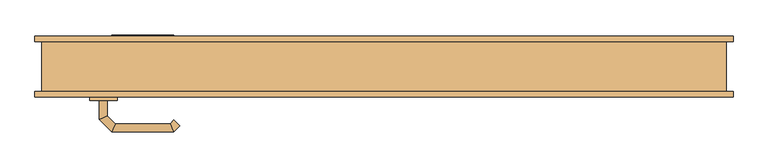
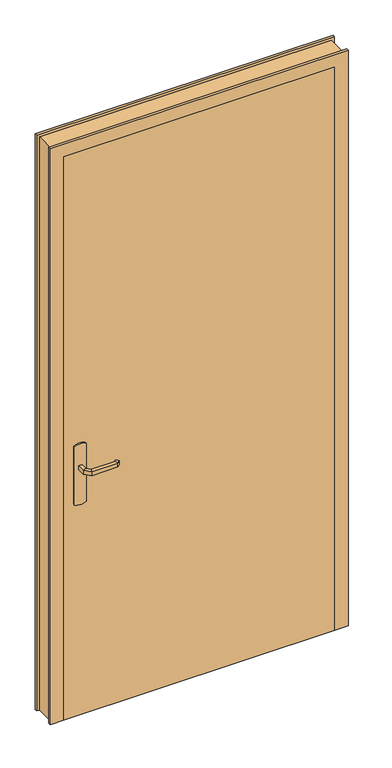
"""IFC4 building model written with IfcOpenShell, lengths in millimetres: door geometry, C&L Int. Simple vantail (dormant variable) : 93x204cm - (90) acoustique."""

import ifcopenshell
import ifcopenshell.guid

model = None  # the IFC model being written
_history = None  # IfcOwnerHistory: only IFC2X3 demands one
_inside = {}  # id of a spatial element -> (the spatial element, [elements in it])
_under = {}  # id of a project, library or spatial element -> (it, [spatial elements below it])
_declared = {}  # id of a project -> (the project, [libraries it declares])
_typed = {}  # id of a type object -> (the type object, [elements of that type])
_made_of = {}  # id of a material, layer set ... -> (it, [elements and type objects made of it])


def new_model(schema):
    """Start an empty IFC model of exactly this schema.

    Asked for "IFC4X3", IfcOpenShell would pick the latest addendum, in which some entities
    have other attributes; the version numbers below select the first issue.
    IFC2X3 requires an IfcOwnerHistory on every rooted entity: one is made here for all.
    """
    global model, _history
    if schema == "IFC4X3":
        model = ifcopenshell.file(schema_version=(4, 3, 0, 0))
    else:
        model = ifcopenshell.file(schema=schema)
    _inside.clear()
    _under.clear()
    _declared.clear()
    _typed.clear()
    _made_of.clear()
    _history = None
    if model.schema == "IFC2X3":
        org = make("IfcOrganization", Name="unknown")
        user = make(
            "IfcPersonAndOrganization",
            ThePerson=make("IfcPerson", FamilyName="unknown"),
            TheOrganization=org,
        )
        app = make(
            "IfcApplication",
            ApplicationDeveloper=org,
            Version="unknown",
            ApplicationFullName="unknown",
            ApplicationIdentifier="unknown",
        )
        _history = make(
            "IfcOwnerHistory",
            OwningUser=user,
            OwningApplication=app,
            ChangeAction="ADDED",
            CreationDate=0,
        )
    return model


def make(cls, **values):
    """One entity of the class cls with the attributes given. An attribute that is None is left unset."""
    return model.create_entity(
        cls, **{name: value for name, value in values.items() if value is not None}
    )


def rooted(cls, **values):
    """An entity with a GlobalId (a new one), such as an element, a storey or a relation."""
    return make(cls, GlobalId=ifcopenshell.guid.new(), OwnerHistory=_history, **values)


def si_unit(unit_type, name, prefix=None):
    """IfcSIUnit, for example si_unit("LENGTHUNIT", "METRE", prefix="MILLI")."""
    return make("IfcSIUnit", UnitType=unit_type, Prefix=prefix, Name=name)


def assignment(units):
    """IfcUnitAssignment: the units of a project."""
    return None if units is None else make("IfcUnitAssignment", Units=units)


def point(xyz):
    """IfcCartesianPoint."""
    return None if xyz is None else make("IfcCartesianPoint", Coordinates=xyz)


def direction(xyz):
    """IfcDirection."""
    return None if xyz is None else make("IfcDirection", DirectionRatios=xyz)


def frame(location, z_axis=None, x_axis=None):
    """IfcAxis2Placement3D, a coordinate frame: its origin and axes. An axis left out is left unset."""
    return make(
        "IfcAxis2Placement3D",
        Location=point(location),
        Axis=direction(z_axis),
        RefDirection=direction(x_axis),
    )


def frame_2d(location, x_axis=None):
    """IfcAxis2Placement2D, a coordinate frame in the plane: its origin and x axis."""
    return make(
        "IfcAxis2Placement2D", Location=point(location), RefDirection=direction(x_axis)
    )


def origin():
    """The frame at (0, 0, 0) with its axes left unset."""
    return frame((0.0, 0.0, 0.0))


def origin_with_axes():
    """The frame at (0, 0, 0) with the z axis (0, 0, 1) and the x axis (1, 0, 0) written out."""
    return frame((0.0, 0.0, 0.0), z_axis=(0.0, 0.0, 1.0), x_axis=(1.0, 0.0, 0.0))


def place(relative_to, where):
    """IfcLocalPlacement: puts the frame where relative to a parent placement (None: the world)."""
    return make(
        "IfcLocalPlacement", PlacementRelTo=relative_to, RelativePlacement=where
    )


def context(
    kind, dimensions, precision=None, world=None, true_north=None, identifier=None
):
    """IfcGeometricRepresentationContext, for example the 3D "Model" context."""
    return make(
        "IfcGeometricRepresentationContext",
        ContextIdentifier=identifier,
        ContextType=kind,
        CoordinateSpaceDimension=dimensions,
        Precision=precision,
        WorldCoordinateSystem=world,
        TrueNorth=true_north,
    )


def project(units=None, contexts=None):
    """IfcProject with its units and contexts."""
    return rooted(
        "IfcProject",
        Name="project",
        RepresentationContexts=contexts,
        UnitsInContext=assignment(units),
    )


def spatial(cls, under=None, at=None, **own):
    """A site, building, storey or space (cls), placed at a placement, below another one or the project."""
    s = rooted(cls, ObjectPlacement=at, **own)
    if under is not None:
        _under.setdefault(under.id(), (under, []))[1].append(s)
    return s


def polyline(points):
    """IfcPolyline through the points."""
    return make("IfcPolyline", Points=[point(p) for p in points])


def circle_curve(where, radius):
    """IfcCircle in the frame where."""
    return make("IfcCircle", Position=where, Radius=radius)


def ellipse_curve(where, semi_axis1, semi_axis2):
    """IfcEllipse in the frame where."""
    return make(
        "IfcEllipse", Position=where, SemiAxis1=semi_axis1, SemiAxis2=semi_axis2
    )


def trimmed(basis, trim1, trim2, sense, master):
    """IfcTrimmedCurve: the piece of a basis curve between two trims."""
    return make(
        "IfcTrimmedCurve",
        BasisCurve=basis,
        Trim1=trim1,
        Trim2=trim2,
        SenseAgreement=sense,
        MasterRepresentation=master,
    )


def segment(curve, same_sense, transition):
    """IfcCompositeCurveSegment."""
    return make(
        "IfcCompositeCurveSegment",
        Transition=transition,
        SameSense=same_sense,
        ParentCurve=curve,
    )


def composite_curve(segments, self_intersect=None):
    """IfcCompositeCurve: segments joined end to end."""
    return make("IfcCompositeCurve", Segments=segments, SelfIntersect=self_intersect)


def outline(outer, holes=None, kind="AREA"):
    """IfcArbitraryClosedProfileDef: a profile drawn as a closed curve; with holes, ...WithVoids."""
    if holes is None:
        return make("IfcArbitraryClosedProfileDef", ProfileType=kind, OuterCurve=outer)
    return make(
        "IfcArbitraryProfileDefWithVoids",
        ProfileType=kind,
        OuterCurve=outer,
        InnerCurves=holes,
    )


def extrude(swept, where, along, depth):
    """IfcExtrudedAreaSolid: the profile swept, set in the frame where, extruded along a direction by depth."""
    return make(
        "IfcExtrudedAreaSolid",
        SweptArea=swept,
        Position=where,
        ExtrudedDirection=direction(along),
        Depth=depth,
    )


def faces_of(points, faces, orient=None, outer=None):
    """IfcFace entities. A face is a list of loops; a loop is a list of indices into points, from 0.

    orient and outer hold one flag for each loop. By default every Orientation is true, the
    first loop of a face is its IfcFaceOuterBound and the others are IfcFaceBound.
    """
    made = []
    for i, loops in enumerate(faces):
        bounds = []
        for j, loop in enumerate(loops):
            is_outer = j == 0 if outer is None else outer[i][j]
            bounds.append(
                make(
                    "IfcFaceOuterBound" if is_outer else "IfcFaceBound",
                    Bound=make("IfcPolyLoop", Polygon=[points[k] for k in loop]),
                    Orientation=True if orient is None else orient[i][j],
                )
            )
        made.append(make("IfcFace", Bounds=bounds))
    return made


def faceted_brep(points, faces, orient=None, outer=None, voids=None):
    """IfcFacetedBrep: a solid bounded by flat faces; with voids (closed shells), ...WithVoids."""
    shared = [point(p) for p in points]
    hull = make("IfcClosedShell", CfsFaces=faces_of(shared, faces, orient, outer))
    if voids is None:
        return make("IfcFacetedBrep", Outer=hull)
    return make(
        "IfcFacetedBrepWithVoids",
        Outer=hull,
        Voids=[
            make(cls, CfsFaces=faces_of(shared, fs, o, b)) for cls, fs, o, b in voids
        ],
    )


def shape(context_of_items, identifier, shape_type, items):
    """IfcShapeRepresentation: the items that make up one representation, for example the "Body"."""
    return make(
        "IfcShapeRepresentation",
        ContextOfItems=context_of_items,
        RepresentationIdentifier=identifier,
        RepresentationType=shape_type,
        Items=items,
    )


def source(mapping_origin, context_of_items, identifier, shape_type, items):
    """IfcRepresentationMap: a shape defined once, which mapped items show again and again."""
    return make(
        "IfcRepresentationMap",
        MappingOrigin=mapping_origin,
        MappedRepresentation=shape(context_of_items, identifier, shape_type, items),
    )


def transform(
    local_origin,
    x_axis=None,
    y_axis=None,
    z_axis=None,
    scale=None,
    scale2=None,
    scale3=None,
    uniform=True,
):
    """IfcCartesianTransformationOperator3D, or its non-uniform kind. x_axis, y_axis, z_axis: its Axis1, 2, 3."""
    if uniform:
        return make(
            "IfcCartesianTransformationOperator3D",
            Axis1=direction(x_axis),
            Axis2=direction(y_axis),
            LocalOrigin=point(local_origin),
            Scale=scale,
            Axis3=direction(z_axis),
        )
    return make(
        "IfcCartesianTransformationOperator3DnonUniform",
        Axis1=direction(x_axis),
        Axis2=direction(y_axis),
        LocalOrigin=point(local_origin),
        Scale=scale,
        Axis3=direction(z_axis),
        Scale2=scale2,
        Scale3=scale3,
    )


def mapped(mapping_source, mapping_target):
    """IfcMappedItem: shows the shape of a source again, moved by a transform."""
    return make(
        "IfcMappedItem", MappingSource=mapping_source, MappingTarget=mapping_target
    )


def made_of(thing, what):
    """Note that an element or type object is made of a material, layer set ...; save() writes the relation."""
    if what is not None:
        _made_of.setdefault(what.id(), (what, []))[1].append(thing)
    return thing


def element(
    cls,
    number,
    at=None,
    inside=None,
    cuts=None,
    type_object=None,
    material=None,
    context=None,
    identifier="Body",
    shape_type=None,
    held_by="IfcProductDefinitionShape",
    body=None,
    shapes=None,
    **own,
):
    """One element of the class cls, such as IfcWall. Its Tag is "e" and its number.

    at: its placement. inside: the storey or other place that contains it. cuts: it is an
    opening in that element (IfcRelVoidsElement). A single representation is given by context,
    identifier, shape_type and body (its items); several are given by shapes. held_by: the class
    of the entity that holds the representations. save() writes the other relations.
    """
    e = rooted(cls, Tag="e%d" % number, ObjectPlacement=at, **own)
    if body is not None:
        shapes = [shape(context, identifier, shape_type, body)]
    if shapes is not None:
        e.Representation = make(held_by, Representations=shapes)
    if inside is not None:
        _inside.setdefault(inside.id(), (inside, []))[1].append(e)
    if cuts is not None:
        rooted(
            "IfcRelVoidsElement", RelatingBuildingElement=cuts, RelatedOpeningElement=e
        )
    if type_object is not None:
        _typed.setdefault(type_object.id(), (type_object, []))[1].append(e)
    return made_of(e, material)


def aggregate(whole, parts):
    """IfcRelAggregates: a whole, such as a stair, and the parts it consists of."""
    return rooted("IfcRelAggregates", RelatingObject=whole, RelatedObjects=parts)


def save(model, path):
    """Write the relations noted so far, then the file.

    IfcRelAggregates (storeys below a building ...), IfcRelContainedInSpatialStructure (elements
    in a storey), IfcRelDefinesByType, IfcRelAssociatesMaterial and IfcRelDeclares: one each for
    every whole, place, type object, material and project.
    """
    for whole, parts in _under.values():
        aggregate(whole, parts)
    for where, things in _inside.values():
        rooted(
            "IfcRelContainedInSpatialStructure",
            RelatedElements=things,
            RelatingStructure=where,
        )
    for kind, things in _typed.values():
        rooted("IfcRelDefinesByType", RelatedObjects=things, RelatingType=kind)
    for what, things in _made_of.values():
        rooted("IfcRelAssociatesMaterial", RelatedObjects=things, RelatingMaterial=what)
    for by, libraries in _declared.values():
        rooted("IfcRelDeclares", RelatingContext=by, RelatedDefinitions=libraries)
    model.write(path)


def plane_surface(at):
    """IfcPlane: the flat surface through the origin of the frame at, square to its z axis."""
    return make("IfcPlane", Position=at)


def cylinder_surface(at, radius):
    """IfcCylindricalSurface: all points at the distance radius from the z axis of the frame at."""
    return make("IfcCylindricalSurface", Position=at, Radius=radius)


def advanced_brep(points, edges, surfaces, faces):
    """IfcAdvancedBrep: a solid bounded by faces that lie on surfaces and meet in shared edges.

    An edge is (start, end): straight between two places in points (the first is 0);
    or (start, end, curve); or (start, end, curve, False) where it runs against its curve.
    A face is (place in surfaces, loops), or (place, loops, False) where it looks against
    its surface's normal. A loop lists edges by number (the first is 1), with a minus sign
    where the edge is run from its end to its start. The first loop is the outer one.
    """
    corners = [point(p) for p in points]
    vertices = [make("IfcVertexPoint", VertexGeometry=c) for c in corners]
    made = []
    for start, end, *more in edges:
        made.append(
            make(
                "IfcEdgeCurve",
                EdgeStart=vertices[start],
                EdgeEnd=vertices[end],
                EdgeGeometry=more[0] if more else make("IfcPolyline", Points=[corners[start], corners[end]]),
                SameSense=more[1] if len(more) > 1 else True,
            )
        )
    hull = []
    for where, loops, *sense in faces:
        bounds = []
        for j, loop in enumerate(loops):
            ring = [make("IfcOrientedEdge", EdgeElement=made[abs(k) - 1], Orientation=k > 0) for k in loop]
            bounds.append(
                make(
                    "IfcFaceOuterBound" if j == 0 else "IfcFaceBound",
                    Bound=make("IfcEdgeLoop", EdgeList=ring),
                    Orientation=True,
                )
            )
        hull.append(make("IfcAdvancedFace", Bounds=bounds, FaceSurface=surfaces[where], SameSense=sense[0] if sense else True))
    return make("IfcAdvancedBrep", Outer=make("IfcClosedShell", CfsFaces=hull))


def door_9ec744e0(model_context):
    return source(origin(), model_context, "Body", "SolidModel", [
        extrude(outline(composite_curve([segment(trimmed(circle_curve(frame_2d((804.6410162, -410.0)), 40.0), [point((770.0, -430.0))], [point((770.0, -390.0))], False, "CARTESIAN"), True, "CONTINUOUS"), segment(polyline([(770.0, -390.0), (980.0, -390.0)]), True, "CONTINUOUS"), segment(trimmed(circle_curve(frame_2d((945.3589838, -410.0)), 40.0), [point((980.0, -390.0))], [point((980.0, -430.0))], False, "CARTESIAN"), True, "CONTINUOUS"), segment(polyline([(980.0, -430.0), (770.0, -430.0)]), True, "CONTINUOUS")], self_intersect=False)), frame((0.0, -49.5, 0.0), z_axis=(0.0, 1.0, 0.0), x_axis=(0.0, 0.0, 1.0)), (0.0, 0.0, 1.0), 5.0),
        extrude(outline(composite_curve([segment(trimmed(circle_curve(frame_2d((945.3589838, -410.0)), 40.0), [point((980.0, -390.0))], [point((980.0, -430.0))], False, "CARTESIAN"), True, "CONTINUOUS"), segment(polyline([(980.0, -430.0), (770.0, -430.0)]), True, "CONTINUOUS"), segment(trimmed(circle_curve(frame_2d((804.6410162, -410.0)), 40.0), [point((770.0, -430.0))], [point((770.0, -390.0))], False, "CARTESIAN"), True, "CONTINUOUS"), segment(polyline([(770.0, -390.0), (980.0, -390.0)]), True, "CONTINUOUS")], self_intersect=False)), frame((0.0, -4.5, 0.0), z_axis=(0.0, 1.0, 0.0), x_axis=(0.0, 0.0, 1.0)), (0.0, 0.0, 1.0), 5.0),
        advanced_brep(
        [(-416.0, -49.5, 907.0), (-404.0, -49.5, 907.0), (-404.0, -49.5, 893.0), (-416.0, -49.5, 893.0), (-416.0, -77.1509507, 907.0), (-404.0, -72.180388, 907.0), (-404.0, -72.180388, 893.0), (-416.0, -77.1509507, 893.0), (-397.62279, -95.5281607, 907.0), (-392.6522273, -83.5281607, 907.0), (-392.6522273, -83.5281607, 893.0), (-397.62279, -95.5281607, 893.0), (-307.496078, -95.5281607, 907.0), (-312.4666408, -83.5281607, 907.0), (-312.4666408, -83.5281607, 893.0), (-307.496078, -95.5281607, 893.0), (-298.6676509, -86.6997336, 907.0), (-298.6676509, -86.6997336, 893.0), (-307.1529323, -78.2144522, 893.0), (-307.1529323, -78.2144522, 907.0)],
        [
            (0, 1, circle_curve(frame((-410.0, -49.5, 886.9542278), z_axis=(0.0, 1.0, 0.0), x_axis=(1.0, 0.0, 0.0)), 20.9244589)),
            (1, 2),
            (2, 3, circle_curve(frame((-410.0, -49.5, 913.0457722), z_axis=(0.0, 1.0, 0.0), x_axis=(1.0, 0.0, 0.0)), 20.9244589)),
            (3, 0),
            (0, 4),
            (4, 5, ellipse_curve(frame((-410.0, -74.6656693, 886.9542278), z_axis=(-0.3826834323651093, 0.9238795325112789, 0.0), x_axis=(0.9238795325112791, 0.38268343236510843, 0.0)), 22.6484711, 20.9244589)),
            (5, 1),
            (5, 6),
            (6, 2),
            (6, 7, ellipse_curve(frame((-410.0, -74.6656693, 913.0457722), z_axis=(-0.3826834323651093, 0.9238795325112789, 0.0), x_axis=(0.9238795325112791, 0.38268343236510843, 0.0)), 22.6484711, 20.9244589)),
            (7, 3),
            (7, 4),
            (4, 8),
            (8, 9, ellipse_curve(frame((-395.1375086, -89.5281607, 886.9542278), z_axis=(-0.9238795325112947, 0.38268343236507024, 0.0), x_axis=(0.3826834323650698, 0.9238795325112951, 0.0)), 22.6484711, 20.9244589)),
            (9, 5),
            (9, 10),
            (10, 6),
            (10, 11, ellipse_curve(frame((-395.1375086, -89.5281607, 913.0457722), z_axis=(-0.9238795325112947, 0.38268343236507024, 0.0), x_axis=(0.3826834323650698, 0.9238795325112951, 0.0)), 22.6484711, 20.9244589)),
            (11, 7),
            (11, 8),
            (8, 12),
            (12, 13, ellipse_curve(frame((-309.9813594, -89.5281607, 886.9542278), z_axis=(-0.9238795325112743, -0.3826834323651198, 0.0), x_axis=(-0.38268343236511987, 0.9238795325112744, 0.0)), 22.6484711, 20.9244589)),
            (13, 9),
            (13, 14),
            (14, 10),
            (14, 15, ellipse_curve(frame((-309.9813594, -89.5281607, 913.0457722), z_axis=(-0.9238795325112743, -0.3826834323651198, 0.0), x_axis=(-0.38268343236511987, 0.9238795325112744, 0.0)), 22.6484711, 20.9244589)),
            (15, 11),
            (15, 12),
            (16, 17),
            (17, 18, circle_curve(frame((-302.9102916, -82.4570929, 913.0457722), z_axis=(0.7071067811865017, 0.7071067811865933, 0.0), x_axis=(-0.7071067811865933, 0.7071067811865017, 0.0)), 20.9244589)),
            (18, 19),
            (19, 16, circle_curve(frame((-302.9102916, -82.4570929, 886.9542278), z_axis=(0.7071067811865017, 0.7071067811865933, 0.0), x_axis=(-0.7071067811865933, 0.7071067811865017, 0.0)), 20.9244589)),
            (12, 16),
            (19, 13),
            (18, 14),
            (17, 15),
        ],
        [
            plane_surface(frame((-419.2195445, -49.5, 900.0), z_axis=(0.0, 1.0, 0.0), x_axis=(0.0, 0.0, -1.0))),
            cylinder_surface(frame((-410.0, -49.5, 886.9542278), z_axis=(0.0, 1.0, 0.0), x_axis=(1.0, 0.0, 0.0)), 20.9244589),
            plane_surface(frame((-404.0, -49.5, 907.0), z_axis=(1.0, 0.0, 0.0), x_axis=(0.0, -1.0, 0.0))),
            cylinder_surface(frame((-410.0, -49.5, 913.0457722), z_axis=(0.0, 1.0, 0.0), x_axis=(1.0, 0.0, 0.0)), 20.9244589),
            plane_surface(frame((-416.0, -49.5, 893.0), z_axis=(-1.0, 0.0, 0.0), x_axis=(0.0, -1.0, 0.0))),
            cylinder_surface(frame((-410.0, -74.6656693, 886.9542278), z_axis=(-0.7071067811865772, 0.7071067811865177, 0.0), x_axis=(0.7071067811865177, 0.7071067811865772, 0.0)), 20.9244589),
            plane_surface(frame((-404.0, -72.180388, 907.0), z_axis=(0.7071067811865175, 0.7071067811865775, 0.0), x_axis=(0.7071067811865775, -0.7071067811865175, 0.0))),
            cylinder_surface(frame((-410.0, -74.6656693, 913.0457722), z_axis=(-0.7071067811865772, 0.7071067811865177, 0.0), x_axis=(0.7071067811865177, 0.7071067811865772, 0.0)), 20.9244589),
            plane_surface(frame((-416.0, -77.1509507, 893.0), z_axis=(-0.7071067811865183, -0.7071067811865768, 0.0), x_axis=(0.7071067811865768, -0.7071067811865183, 0.0))),
            cylinder_surface(frame((-395.1375086, -89.5281607, 886.9542278), z_axis=(-1.0, 0.0, 0.0), x_axis=(0.0, 1.0, 0.0)), 20.9244589),
            plane_surface(frame((-392.6522273, -83.5281607, 907.0), z_axis=(0.0, 1.0, 0.0), x_axis=(1.0, 0.0, 0.0))),
            cylinder_surface(frame((-395.1375086, -89.5281607, 913.0457722), z_axis=(-1.0, 0.0, 0.0), x_axis=(0.0, 1.0, 0.0)), 20.9244589),
            plane_surface(frame((-397.62279, -95.5281607, 893.0), z_axis=(0.0, -1.0, 0.0), x_axis=(1.0, 0.0, 0.0))),
            plane_surface(frame((-302.9102916, -82.4570929, 909.2195445), z_axis=(0.7071067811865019, 0.7071067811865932, 0.0), x_axis=(0.7071067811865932, -0.7071067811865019, 0.0))),
            cylinder_surface(frame((-309.9813594, -89.5281607, 886.9542278), z_axis=(-0.7071067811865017, -0.7071067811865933, 0.0), x_axis=(-0.7071067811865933, 0.7071067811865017, 0.0)), 20.9244589),
            plane_surface(frame((-312.4666408, -83.5281607, 907.0), z_axis=(-0.7071067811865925, 0.7071067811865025, 0.0), x_axis=(0.7071067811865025, 0.7071067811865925, 0.0))),
            cylinder_surface(frame((-309.9813594, -89.5281607, 913.0457722), z_axis=(-0.7071067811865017, -0.7071067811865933, 0.0), x_axis=(-0.7071067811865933, 0.7071067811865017, 0.0)), 20.9244589),
            plane_surface(frame((-307.496078, -95.5281607, 893.0), z_axis=(0.707106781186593, -0.7071067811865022, 0.0), x_axis=(0.7071067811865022, 0.707106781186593, 0.0))),
        ],
        [
            (0, [[1, 2, 3, 4]]),
            (1, [[-1, 5, 6, 7]]),
            (2, [[-2, -7, 8, 9]]),
            (3, [[-3, -9, 10, 11]]),
            (4, [[-4, -11, 12, -5]]),
            (5, [[-6, 13, 14, 15]]),
            (6, [[-8, -15, 16, 17]]),
            (7, [[-10, -17, 18, 19]]),
            (8, [[-12, -19, 20, -13]]),
            (9, [[-14, 21, 22, 23]]),
            (10, [[-16, -23, 24, 25]]),
            (11, [[-18, -25, 26, 27]]),
            (12, [[-20, -27, 28, -21]]),
            (13, [[29, 30, 31, 32]]),
            (14, [[-22, 33, -32, 34]]),
            (15, [[-24, -34, -31, 35]]),
            (16, [[-26, -35, -30, 36]]),
            (17, [[-28, -36, -29, -33]]),
        ],
    ),
        advanced_brep(
        [(-404.0, 0.5, 893.0), (-404.0, 0.5, 907.0), (-416.0, 0.5, 907.0), (-416.0, 0.5, 893.0), (-404.0, 22.9852045, 893.0), (-404.0, 22.9852045, 907.0), (-416.0, 27.9557673, 907.0), (-416.0, 27.9557673, 893.0), (-392.5147186, 34.4704859, 893.0), (-392.5147186, 34.4704859, 907.0), (-397.4852814, 46.4704859, 907.0), (-397.4852814, 46.4704859, 893.0), (-312.4394977, 34.4704859, 893.0), (-312.4394977, 34.4704859, 907.0), (-307.468935, 46.4704859, 907.0), (-307.468935, 46.4704859, 893.0), (-307.1257892, 29.1567774, 893.0), (-298.6405078, 37.6420588, 893.0), (-298.6405078, 37.6420588, 907.0), (-307.1257892, 29.1567774, 907.0)],
        [
            (0, 1),
            (1, 2, circle_curve(frame((-410.0, 0.5, 886.9542278), z_axis=(0.0, -1.0, 0.0), x_axis=(-1.0, 0.0, 0.0)), 20.9244589)),
            (2, 3),
            (3, 0, circle_curve(frame((-410.0, 0.5, 913.0457722), z_axis=(0.0, -1.0, 0.0), x_axis=(-1.0, 0.0, 0.0)), 20.9244589)),
            (0, 4),
            (4, 5),
            (5, 1),
            (5, 6, ellipse_curve(frame((-410.0, 25.4704859, 886.9542278), z_axis=(-0.3826834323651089, -0.9238795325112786, 0.0), x_axis=(0.9238795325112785, -0.3826834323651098, 0.0)), 22.6484711, 20.9244589)),
            (6, 2),
            (6, 7),
            (7, 3),
            (7, 4, ellipse_curve(frame((-410.0, 25.4704859, 913.0457722), z_axis=(-0.3826834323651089, -0.9238795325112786, 0.0), x_axis=(0.9238795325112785, -0.3826834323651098, 0.0)), 22.6484711, 20.9244589)),
            (4, 8),
            (8, 9),
            (9, 5),
            (9, 10, ellipse_curve(frame((-395.0, 40.4704859, 886.9542278), z_axis=(-0.9238795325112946, -0.38268343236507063, 0.0), x_axis=(0.3826834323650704, -0.9238795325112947, 0.0)), 22.6484711, 20.9244589)),
            (10, 6),
            (10, 11),
            (11, 7),
            (11, 8, ellipse_curve(frame((-395.0, 40.4704859, 913.0457722), z_axis=(-0.9238795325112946, -0.38268343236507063, 0.0), x_axis=(0.3826834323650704, -0.9238795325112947, 0.0)), 22.6484711, 20.9244589)),
            (8, 12),
            (12, 13),
            (13, 9),
            (13, 14, ellipse_curve(frame((-309.9542163, 40.4704859, 886.9542278), z_axis=(-0.9238795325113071, 0.38268343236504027, 0.0), x_axis=(-0.38268343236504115, -0.9238795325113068, 0.0)), 22.6484711, 20.9244589)),
            (14, 10),
            (14, 15),
            (15, 11),
            (15, 12, ellipse_curve(frame((-309.9542163, 40.4704859, 913.0457722), z_axis=(-0.9238795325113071, 0.38268343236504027, 0.0), x_axis=(-0.38268343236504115, -0.9238795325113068, 0.0)), 22.6484711, 20.9244589)),
            (16, 17, circle_curve(frame((-302.8831485, 33.3994181, 913.0457722), z_axis=(0.7071067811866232, -0.7071067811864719, 0.0), x_axis=(0.7071067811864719, 0.7071067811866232, 0.0)), 20.9244589)),
            (17, 18),
            (18, 19, circle_curve(frame((-302.8831485, 33.3994181, 886.9542278), z_axis=(0.7071067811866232, -0.7071067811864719, 0.0), x_axis=(0.7071067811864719, 0.7071067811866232, 0.0)), 20.9244589)),
            (19, 16),
            (12, 16),
            (19, 13),
            (18, 14),
            (17, 15),
        ],
        [
            plane_surface(frame((-419.2195445, 0.5, 900.0), z_axis=(0.0, -1.0, 0.0), x_axis=(0.0, 0.0, 1.0))),
            plane_surface(frame((-404.0, 0.5, 893.0), z_axis=(1.0, 0.0, 0.0), x_axis=(0.0, 1.0, 0.0))),
            cylinder_surface(frame((-410.0, 0.5, 886.9542278), z_axis=(0.0, -1.0, 0.0), x_axis=(-1.0, 0.0, 0.0)), 20.9244589),
            plane_surface(frame((-416.0, 0.5, 907.0), z_axis=(-1.0, 0.0, 0.0), x_axis=(0.0, 1.0, 0.0))),
            cylinder_surface(frame((-410.0, 0.5, 913.0457722), z_axis=(0.0, -1.0, 0.0), x_axis=(-1.0, 0.0, 0.0)), 20.9244589),
            plane_surface(frame((-404.0, 22.9852045, 893.0), z_axis=(0.707106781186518, -0.707106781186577, 0.0), x_axis=(0.707106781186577, 0.707106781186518, 0.0))),
            cylinder_surface(frame((-410.0, 25.4704859, 886.9542278), z_axis=(-0.7071067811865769, -0.7071067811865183, 0.0), x_axis=(-0.7071067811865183, 0.7071067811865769, 0.0)), 20.9244589),
            plane_surface(frame((-416.0, 27.9557673, 907.0), z_axis=(-0.7071067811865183, 0.7071067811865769, 0.0), x_axis=(0.7071067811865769, 0.7071067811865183, 0.0))),
            cylinder_surface(frame((-410.0, 25.4704859, 913.0457722), z_axis=(-0.7071067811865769, -0.7071067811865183, 0.0), x_axis=(-0.7071067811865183, 0.7071067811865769, 0.0)), 20.9244589),
            plane_surface(frame((-392.5147186, 34.4704859, 893.0), z_axis=(0.0, -1.0, 0.0), x_axis=(1.0, 0.0, 0.0))),
            cylinder_surface(frame((-395.0, 40.4704859, 886.9542278), z_axis=(-1.0, 0.0, 0.0), x_axis=(0.0, 1.0, 0.0)), 20.9244589),
            plane_surface(frame((-397.4852814, 46.4704859, 907.0), z_axis=(0.0, 1.0, 0.0), x_axis=(1.0, 0.0, 0.0))),
            cylinder_surface(frame((-395.0, 40.4704859, 913.0457722), z_axis=(-1.0, 0.0, 0.0), x_axis=(0.0, 1.0, 0.0)), 20.9244589),
            plane_surface(frame((-302.8831485, 33.3994181, 890.7804555), z_axis=(0.7071067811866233, -0.7071067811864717, 0.0), x_axis=(0.7071067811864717, 0.7071067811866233, 0.0))),
            plane_surface(frame((-312.4394977, 34.4704859, 893.0), z_axis=(-0.7071067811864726, -0.7071067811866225, 0.0), x_axis=(0.7071067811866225, -0.7071067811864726, 0.0))),
            cylinder_surface(frame((-309.9542163, 40.4704859, 886.9542278), z_axis=(-0.7071067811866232, 0.7071067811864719, 0.0), x_axis=(0.7071067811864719, 0.7071067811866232, 0.0)), 20.9244589),
            plane_surface(frame((-307.468935, 46.4704859, 907.0), z_axis=(0.7071067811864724, 0.7071067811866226, 0.0), x_axis=(0.7071067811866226, -0.7071067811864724, 0.0))),
            cylinder_surface(frame((-309.9542163, 40.4704859, 913.0457722), z_axis=(-0.7071067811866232, 0.7071067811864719, 0.0), x_axis=(0.7071067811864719, 0.7071067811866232, 0.0)), 20.9244589),
        ],
        [
            (0, [[1, 2, 3, 4]]),
            (1, [[-1, 5, 6, 7]]),
            (2, [[-2, -7, 8, 9]]),
            (3, [[-3, -9, 10, 11]]),
            (4, [[-4, -11, 12, -5]]),
            (5, [[-6, 13, 14, 15]]),
            (6, [[-8, -15, 16, 17]]),
            (7, [[-10, -17, 18, 19]]),
            (8, [[-12, -19, 20, -13]]),
            (9, [[-14, 21, 22, 23]]),
            (10, [[-16, -23, 24, 25]]),
            (11, [[-18, -25, 26, 27]]),
            (12, [[-20, -27, 28, -21]]),
            (13, [[29, 30, 31, 32]]),
            (14, [[-22, 33, -32, 34]]),
            (15, [[-24, -34, -31, 35]]),
            (16, [[-26, -35, -30, 36]]),
            (17, [[-28, -36, -29, -33]]),
        ],
    ),
        faceted_brep([(-500.0, -36.5, 0.0), (-500.0, 36.5, 0.0), (-510.0, 36.5, 0.0), (-510.0, 44.5, 0.0), (-450.0, 44.5, 0.0), (-450.0, -4.5, 0.0), (-465.0, -4.5, 0.0), (-465.0, -44.5, 0.0), (-510.0, -44.5, 0.0), (-510.0, -36.5, 0.0), (-500.0, -36.5, 2075.0), (-500.0, 36.5, 2075.0), (500.0, 36.5, 2075.0), (500.0, 36.5, 0.0), (510.0, 36.5, 0.0), (510.0, 36.5, 2085.0), (-510.0, 36.5, 2085.0), (-510.0, 44.5, 2085.0), (510.0, 44.5, 2085.0), (510.0, 44.5, 0.0), (450.0, 44.5, 0.0), (450.0, 44.5, 2025.0), (-450.0, 44.5, 2025.0), (-450.0, -4.5, 2025.0), (450.0, -4.5, 2025.0), (450.0, -4.5, 0.0), (465.0, -4.5, 0.0), (465.0, -4.5, 2040.0), (-465.0, -4.5, 2040.0), (-465.0, -44.5, 2040.0), (465.0, -44.5, 2040.0), (465.0, -44.5, 0.0), (510.0, -44.5, 0.0), (510.0, -44.5, 2085.0), (-510.0, -44.5, 2085.0), (-510.0, -36.5, 2085.0), (510.0, -36.5, 2085.0), (510.0, -36.5, 0.0), (500.0, -36.5, 0.0), (500.0, -36.5, 2075.0)], [[[0, 1, 2, 3, 4, 5, 6, 7, 8, 9]], [[1, 0, 10, 11]], [[2, 1, 11, 12, 13, 14, 15, 16]], [[3, 2, 16, 17]], [[4, 3, 17, 18, 19, 20, 21, 22]], [[5, 4, 22, 23]], [[6, 5, 23, 24, 25, 26, 27, 28]], [[7, 6, 28, 29]], [[8, 7, 29, 30, 31, 32, 33, 34]], [[9, 8, 34, 35]], [[0, 9, 35, 36, 37, 38, 39, 10]], [[11, 10, 39, 12]], [[17, 16, 15, 18]], [[23, 22, 21, 24]], [[29, 28, 27, 30]], [[35, 34, 33, 36]], [[38, 37, 32, 31, 26, 25, 20, 19, 14, 13]], [[12, 39, 38, 13]], [[18, 15, 14, 19]], [[24, 21, 20, 25]], [[30, 27, 26, 31]], [[36, 33, 32, 37]]]),
        extrude(outline(polyline([(465.0, -44.5), (-465.0, -44.5), (-465.0, -4.5), (465.0, -4.5), (465.0, -44.5)])), origin_with_axes(), (0.0, 0.0, 1.0), 2040.0),
    ])


if __name__ == "__main__":
    model = new_model("IFC4")
    model_context = context("Model", 3, world=origin())
    ifc_project = project(units=[si_unit("LENGTHUNIT", "METRE", prefix="MILLI")], contexts=[model_context])
    site = spatial("IfcSite", under=ifc_project)
    building = spatial("IfcBuilding", under=site)
    placement = place(None, origin())
    door_shape = door_9ec744e0(model_context)
    element("IfcDoor", 1, ObjectType="C&L Int. Simple vantail (dormant variable) : 93x204cm - (90) acoustique", at=placement, inside=building, context=model_context, shape_type="MappedRepresentation", body=[
        mapped(door_shape, transform((0.0, 0.0, 0.0), x_axis=(1.0, 0.0, 0.0), y_axis=(0.0, 1.0, 0.0), z_axis=(0.0, 0.0, 1.0))),
    ])
    save(model, "model.ifc")
